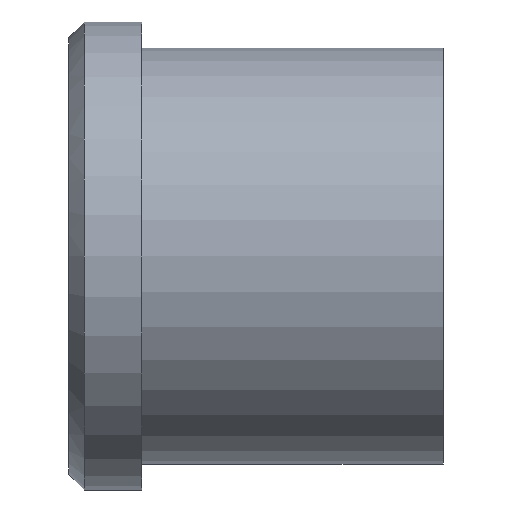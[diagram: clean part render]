
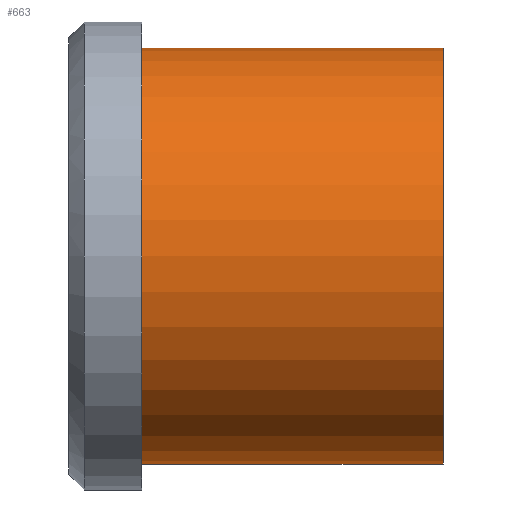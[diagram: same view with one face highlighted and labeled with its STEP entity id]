
A CAD part, front view. The second image highlights one B-rep face of the part: STEP entity #663.
In plain terms, the highlighted cylindrical face has radius 20 mm (diameter 40 mm), a partial arc.
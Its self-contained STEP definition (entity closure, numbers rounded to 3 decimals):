
#501=CARTESIAN_POINT('Vertex',(0.,0.,-20.)) ;
#506=CARTESIAN_POINT('Axis2P3D Location',(0.,0.,0.)) ;
#510=CARTESIAN_POINT('Vertex',(0.,-20.,0.)) ;
#513=CARTESIAN_POINT('Axis2P3D Location',(0.,0.,0.)) ;
#517=CARTESIAN_POINT('Vertex',(0.,0.,20.)) ;
#603=CARTESIAN_POINT('Line Origine',(29.,0.,20.)) ;
#607=CARTESIAN_POINT('Vertex',(29.,0.,20.)) ;
#621=CARTESIAN_POINT('Vertex',(29.,0.,-20.)) ;
#624=CARTESIAN_POINT('Line Origine',(29.,0.,-20.)) ;
#638=CARTESIAN_POINT('Axis2P3D Location',(29.,0.,0.)) ;
#643=CARTESIAN_POINT('Axis2P3D Location',(29.,0.,0.)) ;
#647=CARTESIAN_POINT('Vertex',(29.,-20.,0.)) ;
#650=CARTESIAN_POINT('Axis2P3D Location',(29.,0.,0.)) ;
#507=DIRECTION('Axis2P3D Direction',(1.,0.,-0.)) ;
#514=DIRECTION('Axis2P3D Direction',(1.,0.,-0.)) ;
#604=DIRECTION('Vector Direction',(-1.,0.,0.)) ;
#625=DIRECTION('Vector Direction',(-1.,0.,0.)) ;
#639=DIRECTION('Axis2P3D Direction',(-1.,-0.,-0.)) ;
#640=DIRECTION('Axis2P3D XDirection',(0.,0.,-1.)) ;
#644=DIRECTION('Axis2P3D Direction',(-1.,-0.,-0.)) ;
#651=DIRECTION('Axis2P3D Direction',(-1.,-0.,-0.)) ;
#508=AXIS2_PLACEMENT_3D('Circle Axis2P3D',#506,#507,$) ;
#515=AXIS2_PLACEMENT_3D('Circle Axis2P3D',#513,#514,$) ;
#641=AXIS2_PLACEMENT_3D('Cylinder Axis2P3D',#638,#639,#640) ;
#645=AXIS2_PLACEMENT_3D('Circle Axis2P3D',#643,#644,$) ;
#652=AXIS2_PLACEMENT_3D('Circle Axis2P3D',#650,#651,$) ;
#656=ORIENTED_EDGE('',*,*,#628,.T.) ;
#657=ORIENTED_EDGE('',*,*,#649,.F.) ;
#658=ORIENTED_EDGE('',*,*,#654,.F.) ;
#659=ORIENTED_EDGE('',*,*,#609,.T.) ;
#660=ORIENTED_EDGE('',*,*,#519,.T.) ;
#661=ORIENTED_EDGE('',*,*,#512,.T.) ;
#605=VECTOR('Line Direction',#604,1.) ;
#626=VECTOR('Line Direction',#625,1.) ;
#663=ADVANCED_FACE('353-32X36',(#662),#642,.T.) ;
#509=CIRCLE('generated circle',#508,20.) ;
#516=CIRCLE('generated circle',#515,20.) ;
#646=CIRCLE('generated circle',#645,20.) ;
#653=CIRCLE('generated circle',#652,20.) ;
#642=CYLINDRICAL_SURFACE('generated cylinder',#641,20.) ;
#512=EDGE_CURVE('',#511,#502,#509,.T.) ;
#519=EDGE_CURVE('',#518,#511,#516,.T.) ;
#609=EDGE_CURVE('',#608,#518,#606,.T.) ;
#628=EDGE_CURVE('',#502,#622,#627,.F.) ;
#649=EDGE_CURVE('',#648,#622,#646,.F.) ;
#654=EDGE_CURVE('',#608,#648,#653,.F.) ;
#655=EDGE_LOOP('',(#656,#657,#658,#659,#660,#661)) ;
#662=FACE_OUTER_BOUND('',#655,.T.) ;
#606=LINE('Line',#603,#605) ;
#627=LINE('Line',#624,#626) ;
#502=VERTEX_POINT('',#501) ;
#511=VERTEX_POINT('',#510) ;
#518=VERTEX_POINT('',#517) ;
#608=VERTEX_POINT('',#607) ;
#622=VERTEX_POINT('',#621) ;
#648=VERTEX_POINT('',#647) ;
